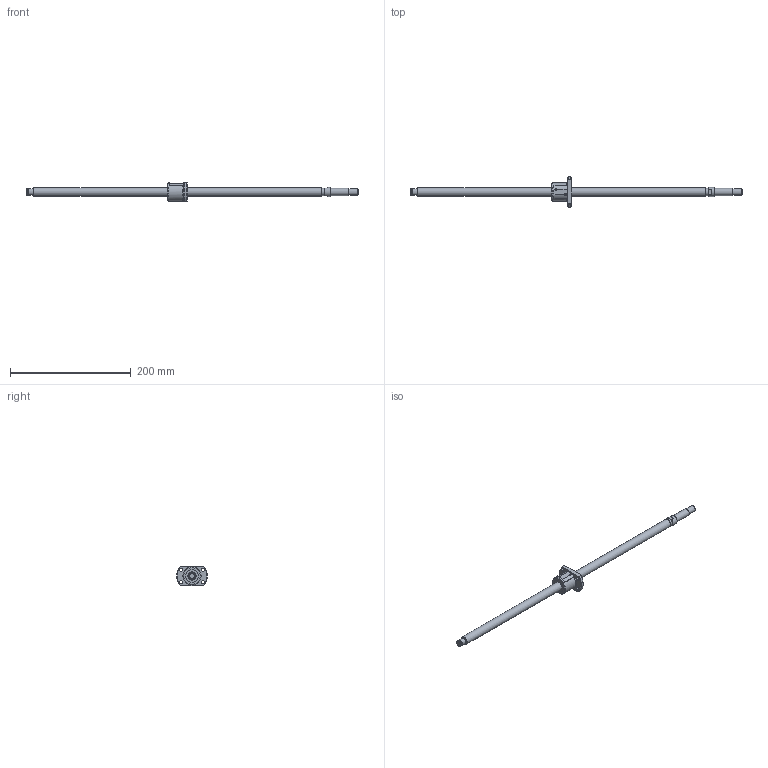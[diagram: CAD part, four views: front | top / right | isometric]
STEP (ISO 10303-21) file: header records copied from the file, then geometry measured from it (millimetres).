
FILE_DESCRIPTION(/* description */ ('STEP AP214'),/* implementation_level */ '2;1');
FILE_NAME(/* name */ 'SG1404-478R550C5B0X(222.5)',/* time_stamp */ '2026-07-24T21:01:54+02:00',/* author */ ('License CC BY-ND 4.0'),/* organization */ ('CADENAS'),/* preprocessor_version */ 'ST-DEVELOPER v20',/* originating_system */ 'PARTsolutions',/* authorisation */ ' ');
FILE_SCHEMA (('AUTOMOTIVE_DESIGN {1 0 10303 214 3 1 1}'));
Length unit declared in the file: millimetre
Products named in the file (3): SG1404-478R550C5B0X(222.5); SG1404-478R550C5B_shaft; SG1404 C5_nut
Assembly tree (2 placements, depth 2):
  SG1404-478R550C5B0X(222.5)
    SG1404-478R550C5B_shaft
    SG1404 C5_nut
Bounding box: 550 x 51 x 32 mm (x, y, z)
Volume: 102830.1 mm3; surface area: 31835.3 mm2
Topology: 2 solids, 2 shells, 85 faces, 202 edges, 132 vertices
Faces by surface type: plane 41, cylinder 29, cone 14, torus 1
Full cylindrical faces by diameter (mm): 5.5 x4, 9.6 x1, 10 x3, 12 x1, 12.16 x1, 14 x2, 15 x1, 21 x2, 29.6 x1, 30 x1
Entity records: 2353 total; most frequent: CARTESIAN_POINT 430, DIRECTION 404, ORIENTED_EDGE 326, AXIS2_PLACEMENT_3D 171, EDGE_CURVE 163, EDGE_LOOP 134, FACE_BOUND 134, VERTEX_POINT 121
